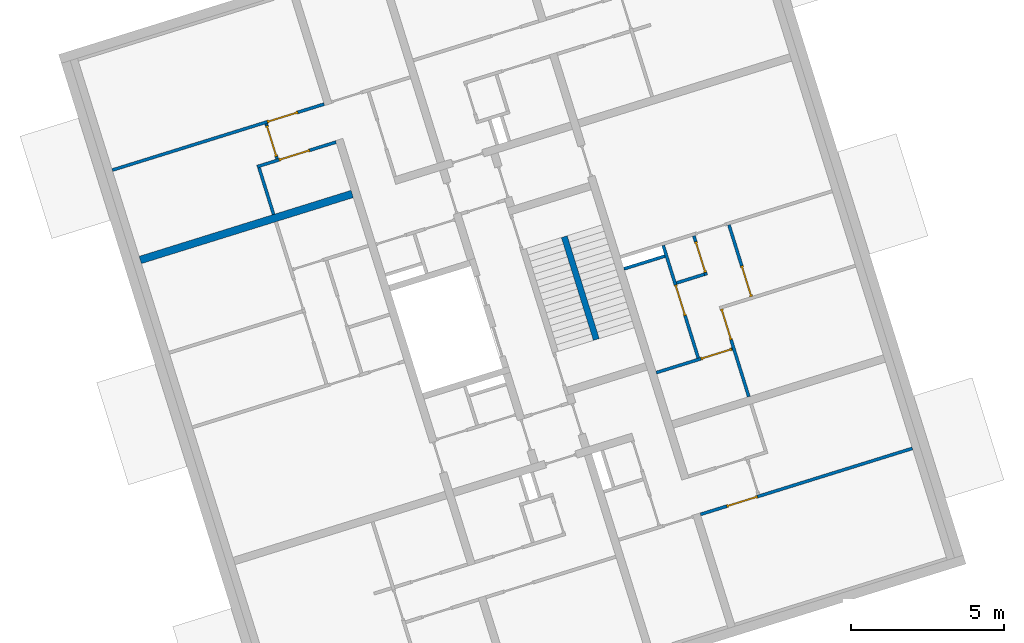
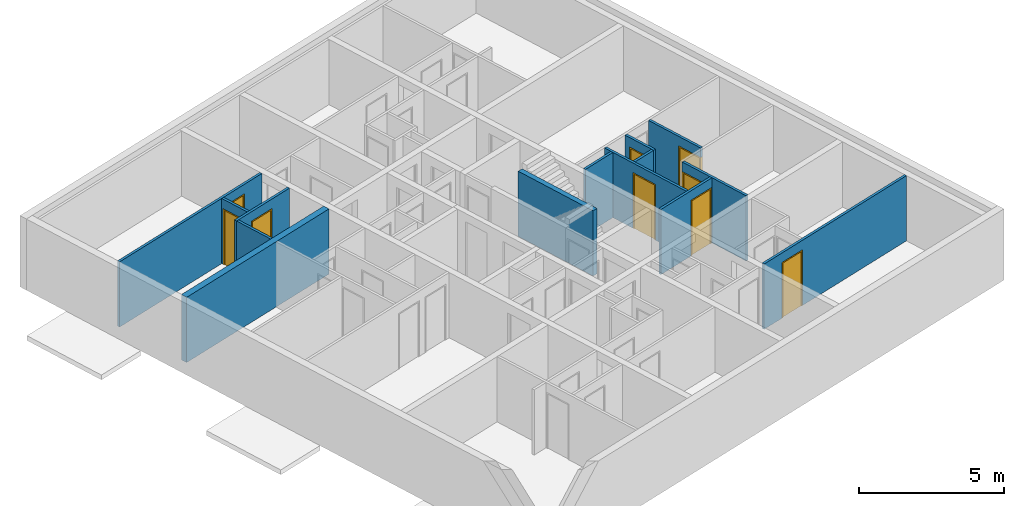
# One storey, part 4 of 8: 14 walls, 9 doors, 10 openings.
"""IFC4 building model written with IfcOpenShell, lengths in metres."""

import ifcopenshell
import ifcopenshell.guid

model = None  # the IFC model being written
_history = None  # IfcOwnerHistory: only IFC2X3 demands one
_inside = {}  # id of a spatial element -> (the spatial element, [elements in it])
_under = {}  # id of a project, library or spatial element -> (it, [spatial elements below it])
_declared = {}  # id of a project -> (the project, [libraries it declares])
_typed = {}  # id of a type object -> (the type object, [elements of that type])
_made_of = {}  # id of a material, layer set ... -> (it, [elements and type objects made of it])


def new_model(schema):
    """Start an empty IFC model of exactly this schema.

    Asked for "IFC4X3", IfcOpenShell would pick the latest addendum, in which some entities
    have other attributes; the version numbers below select the first issue.
    IFC2X3 requires an IfcOwnerHistory on every rooted entity: one is made here for all.
    """
    global model, _history
    if schema == "IFC4X3":
        model = ifcopenshell.file(schema_version=(4, 3, 0, 0))
    else:
        model = ifcopenshell.file(schema=schema)
    _inside.clear()
    _under.clear()
    _declared.clear()
    _typed.clear()
    _made_of.clear()
    _history = None
    if model.schema == "IFC2X3":
        org = make("IfcOrganization", Name="unknown")
        user = make(
            "IfcPersonAndOrganization",
            ThePerson=make("IfcPerson", FamilyName="unknown"),
            TheOrganization=org,
        )
        app = make(
            "IfcApplication",
            ApplicationDeveloper=org,
            Version="unknown",
            ApplicationFullName="unknown",
            ApplicationIdentifier="unknown",
        )
        _history = make(
            "IfcOwnerHistory",
            OwningUser=user,
            OwningApplication=app,
            ChangeAction="ADDED",
            CreationDate=0,
        )
    return model


def make(cls, **values):
    """One entity of the class cls with the attributes given. An attribute that is None is left unset."""
    return model.create_entity(
        cls, **{name: value for name, value in values.items() if value is not None}
    )


def entity(cls, *values):
    """Any entity or typed value of the class cls, its attributes in the order of the schema. None: left unset."""
    e = model.create_entity(cls)
    for i, value in enumerate(values):
        if value is not None:
            e[i] = value
    return e


def rooted(cls, **values):
    """An entity with a GlobalId (a new one), such as an element, a storey or a relation."""
    return make(cls, GlobalId=ifcopenshell.guid.new(), OwnerHistory=_history, **values)


def si_unit(unit_type, name, prefix=None):
    """IfcSIUnit, for example si_unit("LENGTHUNIT", "METRE", prefix="MILLI")."""
    return make("IfcSIUnit", UnitType=unit_type, Prefix=prefix, Name=name)


def converted_unit(unit_type, name, factor, base, dimensions=None, offset=None):
    """IfcConversionBasedUnit, such as the inch: factor (a typed value) times the base unit."""
    return make(
        "IfcConversionBasedUnit"
        if offset is None
        else "IfcConversionBasedUnitWithOffset",
        ConversionOffset=offset,
        Dimensions=None
        if dimensions is None
        else entity("IfcDimensionalExponents", *dimensions),
        UnitType=unit_type,
        Name=name,
        ConversionFactor=make(
            "IfcMeasureWithUnit", ValueComponent=factor, UnitComponent=base
        ),
    )


def assignment(units):
    """IfcUnitAssignment: the units of a project."""
    return None if units is None else make("IfcUnitAssignment", Units=units)


def point(xyz):
    """IfcCartesianPoint."""
    return None if xyz is None else make("IfcCartesianPoint", Coordinates=xyz)


def direction(xyz):
    """IfcDirection."""
    return None if xyz is None else make("IfcDirection", DirectionRatios=xyz)


def frame(location, z_axis=None, x_axis=None):
    """IfcAxis2Placement3D, a coordinate frame: its origin and axes. An axis left out is left unset."""
    return make(
        "IfcAxis2Placement3D",
        Location=point(location),
        Axis=direction(z_axis),
        RefDirection=direction(x_axis),
    )


def origin():
    """The frame at (0, 0, 0) with its axes left unset."""
    return frame((0.0, 0.0, 0.0))


def place(relative_to, where):
    """IfcLocalPlacement: puts the frame where relative to a parent placement (None: the world)."""
    return make(
        "IfcLocalPlacement", PlacementRelTo=relative_to, RelativePlacement=where
    )


def context(
    kind, dimensions, precision=None, world=None, true_north=None, identifier=None
):
    """IfcGeometricRepresentationContext, for example the 3D "Model" context."""
    return make(
        "IfcGeometricRepresentationContext",
        ContextIdentifier=identifier,
        ContextType=kind,
        CoordinateSpaceDimension=dimensions,
        Precision=precision,
        WorldCoordinateSystem=world,
        TrueNorth=true_north,
    )


def subcontext(parent, identifier, kind, view, scale=None):
    """IfcGeometricRepresentationSubContext, for example "Body" below "Model"."""
    return make(
        "IfcGeometricRepresentationSubContext",
        ContextIdentifier=identifier,
        ContextType=kind,
        ParentContext=parent,
        TargetScale=scale,
        TargetView=view,
    )


def project(units=None, contexts=None):
    """IfcProject with its units and contexts."""
    return rooted(
        "IfcProject",
        Name="project",
        RepresentationContexts=contexts,
        UnitsInContext=assignment(units),
    )


def spatial(cls, under=None, at=None, **own):
    """A site, building, storey or space (cls), placed at a placement, below another one or the project."""
    s = rooted(cls, ObjectPlacement=at, **own)
    if under is not None:
        _under.setdefault(under.id(), (under, []))[1].append(s)
    return s


def point_list(points):
    """IfcCartesianPointList2D or 3D."""
    cls = (
        "IfcCartesianPointList2D" if len(points[0]) == 2 else "IfcCartesianPointList3D"
    )
    return make(cls, CoordList=points)


def indexed_curve(points, segments=None, self_intersect=None):
    """IfcIndexedPolyCurve: lines and arcs through numbered points (the first is 1)."""
    return make(
        "IfcIndexedPolyCurve",
        Points=point_list(points),
        Segments=segments,
        SelfIntersect=self_intersect,
    )


def outline(outer, holes=None, kind="AREA"):
    """IfcArbitraryClosedProfileDef: a profile drawn as a closed curve; with holes, ...WithVoids."""
    if holes is None:
        return make("IfcArbitraryClosedProfileDef", ProfileType=kind, OuterCurve=outer)
    return make(
        "IfcArbitraryProfileDefWithVoids",
        ProfileType=kind,
        OuterCurve=outer,
        InnerCurves=holes,
    )


def extrude(swept, where, along, depth):
    """IfcExtrudedAreaSolid: the profile swept, set in the frame where, extruded along a direction by depth."""
    return make(
        "IfcExtrudedAreaSolid",
        SweptArea=swept,
        Position=where,
        ExtrudedDirection=direction(along),
        Depth=depth,
    )


def polygons(points, faces, closed=None, point_numbers=None):
    """IfcPolygonalFaceSet: a face is its outer loop, then its inner loops; points numbered from 1."""
    made = []
    for loops in faces:
        if len(loops) == 1:
            made.append(make("IfcIndexedPolygonalFace", CoordIndex=loops[0]))
        else:
            made.append(
                make(
                    "IfcIndexedPolygonalFaceWithVoids",
                    CoordIndex=loops[0],
                    InnerCoordIndices=loops[1:],
                )
            )
    return make(
        "IfcPolygonalFaceSet",
        Coordinates=point_list(points),
        Closed=closed,
        Faces=made,
        PnIndex=point_numbers,
    )


def shape(context_of_items, identifier, shape_type, items):
    """IfcShapeRepresentation: the items that make up one representation, for example the "Body"."""
    return make(
        "IfcShapeRepresentation",
        ContextOfItems=context_of_items,
        RepresentationIdentifier=identifier,
        RepresentationType=shape_type,
        Items=items,
    )


def source(mapping_origin, context_of_items, identifier, shape_type, items):
    """IfcRepresentationMap: a shape defined once, which mapped items show again and again."""
    return make(
        "IfcRepresentationMap",
        MappingOrigin=mapping_origin,
        MappedRepresentation=shape(context_of_items, identifier, shape_type, items),
    )


def transform(
    local_origin,
    x_axis=None,
    y_axis=None,
    z_axis=None,
    scale=None,
    scale2=None,
    scale3=None,
    uniform=True,
):
    """IfcCartesianTransformationOperator3D, or its non-uniform kind. x_axis, y_axis, z_axis: its Axis1, 2, 3."""
    if uniform:
        return make(
            "IfcCartesianTransformationOperator3D",
            Axis1=direction(x_axis),
            Axis2=direction(y_axis),
            LocalOrigin=point(local_origin),
            Scale=scale,
            Axis3=direction(z_axis),
        )
    return make(
        "IfcCartesianTransformationOperator3DnonUniform",
        Axis1=direction(x_axis),
        Axis2=direction(y_axis),
        LocalOrigin=point(local_origin),
        Scale=scale,
        Axis3=direction(z_axis),
        Scale2=scale2,
        Scale3=scale3,
    )


def mapped(mapping_source, mapping_target):
    """IfcMappedItem: shows the shape of a source again, moved by a transform."""
    return make(
        "IfcMappedItem", MappingSource=mapping_source, MappingTarget=mapping_target
    )


def material(Name=None, Category=None):
    """IfcMaterial."""
    return make("IfcMaterial", Name=Name, Category=Category)


def constituent(of_material, Name=None, Category=None, fraction=None):
    """IfcMaterialConstituent: one of the materials an element consists of."""
    return make(
        "IfcMaterialConstituent",
        Name=Name,
        Material=of_material,
        Fraction=fraction,
        Category=Category,
    )


def constituent_set(constituents=None, Name=None):
    """IfcMaterialConstituentSet."""
    return make(
        "IfcMaterialConstituentSet", Name=Name, MaterialConstituents=constituents
    )


def made_of(thing, what):
    """Note that an element or type object is made of a material, layer set ...; save() writes the relation."""
    if what is not None:
        _made_of.setdefault(what.id(), (what, []))[1].append(thing)
    return thing


def type_object(cls, material=None, **own):
    """A type object (cls), such as IfcWallType, which elements share."""
    return made_of(rooted(cls, **own), material)


def type_shapes(of_type, sources):
    """Give a type object the sources (RepresentationMaps) that its elements show as mapped items."""
    of_type.RepresentationMaps = sources


def element(
    cls,
    number,
    at=None,
    inside=None,
    cuts=None,
    type_object=None,
    material=None,
    context=None,
    identifier="Body",
    shape_type=None,
    held_by="IfcProductDefinitionShape",
    body=None,
    shapes=None,
    **own,
):
    """One element of the class cls, such as IfcWall. Its Tag is "e" and its number.

    at: its placement. inside: the storey or other place that contains it. cuts: it is an
    opening in that element (IfcRelVoidsElement). A single representation is given by context,
    identifier, shape_type and body (its items); several are given by shapes. held_by: the class
    of the entity that holds the representations. save() writes the other relations.
    """
    e = rooted(cls, Tag="e%d" % number, ObjectPlacement=at, **own)
    if body is not None:
        shapes = [shape(context, identifier, shape_type, body)]
    if shapes is not None:
        e.Representation = make(held_by, Representations=shapes)
    if inside is not None:
        _inside.setdefault(inside.id(), (inside, []))[1].append(e)
    if cuts is not None:
        rooted(
            "IfcRelVoidsElement", RelatingBuildingElement=cuts, RelatedOpeningElement=e
        )
    if type_object is not None:
        _typed.setdefault(type_object.id(), (type_object, []))[1].append(e)
    return made_of(e, material)


def fill(opening, filler):
    """IfcRelFillsElement: the door or window that sits in an opening."""
    return rooted(
        "IfcRelFillsElement",
        RelatingOpeningElement=opening,
        RelatedBuildingElement=filler,
    )


def aggregate(whole, parts):
    """IfcRelAggregates: a whole, such as a stair, and the parts it consists of."""
    return rooted("IfcRelAggregates", RelatingObject=whole, RelatedObjects=parts)


def save(model, path):
    """Write the relations noted so far, then the file.

    IfcRelAggregates (storeys below a building ...), IfcRelContainedInSpatialStructure (elements
    in a storey), IfcRelDefinesByType, IfcRelAssociatesMaterial and IfcRelDeclares: one each for
    every whole, place, type object, material and project.
    """
    for whole, parts in _under.values():
        aggregate(whole, parts)
    for where, things in _inside.values():
        rooted(
            "IfcRelContainedInSpatialStructure",
            RelatedElements=things,
            RelatingStructure=where,
        )
    for kind, things in _typed.values():
        rooted("IfcRelDefinesByType", RelatedObjects=things, RelatingType=kind)
    for what, things in _made_of.values():
        rooted("IfcRelAssociatesMaterial", RelatedObjects=things, RelatingMaterial=what)
    for by, libraries in _declared.values():
        rooted("IfcRelDeclares", RelatingContext=by, RelatedDefinitions=libraries)
    model.write(path)


model = new_model("IFC4")

# Units and contexts
model_context = context("Model", 3, precision=1e-05, world=origin(), true_north=direction((6.12323399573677e-17, 1.0)))
body_context = subcontext(model_context, "Body", "Model", "MODEL_VIEW")
ifc_project = project(units=[si_unit("LENGTHUNIT", "METRE"), si_unit("AREAUNIT", "SQUARE_METRE"), si_unit("VOLUMEUNIT", "CUBIC_METRE"), converted_unit("PLANEANGLEUNIT", "DEGREE", entity("IfcPlaneAngleMeasure", 0.0174532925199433), si_unit("PLANEANGLEUNIT", "RADIAN"), dimensions=[0, 0, 0, 0, 0, 0, 0])], contexts=[model_context])

# Site, building, storey
site_placement = place(None, frame((13.1347999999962, 11.9886000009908, 0.0), z_axis=(0.0, 0.0, 1.0), x_axis=(0.954770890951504, 0.297342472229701, 0.0)))
site = spatial("IfcSite", under=ifc_project, at=site_placement, Name="Schiehaven", CompositionType="ELEMENT")
building_placement = place(site_placement, origin())
building = spatial("IfcBuilding", under=site, at=building_placement, Name="VORM huis", CompositionType="ELEMENT")
storey_placement = place(building_placement, frame((0.0, 0.0, 21.9)))
storey = spatial("IfcBuildingStorey", under=building, at=storey_placement, Name="07 zevende verdieping", CompositionType="ELEMENT", Elevation=21.9)

# Walls
ifc_material_1 = material(Name="beton_gewapend_prefab-element", Category="Miscellaneous")
wall_type_1 = type_object("IfcWallType", Name="Basic Wall:28_WA_skelet_wand 200mm_gen", PredefinedType="STANDARD")
wall_1_placement = place(storey_placement, frame((18.5750000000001, 15.29, 0.0), z_axis=(0.0, 0.0, 1.0), x_axis=(0.0, 1.0, 0.0)))
element("IfcWall", 1, at=wall_1_placement, inside=storey, type_object=wall_type_1, material=ifc_material_1, Name="Constructieve wand", ObjectType="Wand", PredefinedType="NOTDEFINED", context=body_context, shape_type="SweptSolid", body=[
    extrude(outline(indexed_curve([(3.52, 0.0999999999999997), (-6.36077049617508e-16, 0.0999999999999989), (6.36077049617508e-16, -0.0999999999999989), (3.52, -0.0999999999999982), (3.52, 0.0999999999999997)], self_intersect=False)), origin(), (0.0, 0.0, 1.0), 2.75),
])
ifc_material_2 = material(Name="ntb_ntb_ntb", Category="Miscellaneous")
wall_type_2 = type_object("IfcWallType", Name="Basic Wall:22_WA_afbouw_binnenwand 250mm_gen", PredefinedType="STANDARD")
wall_2_placement = place(storey_placement, frame((12.3750000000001, 22.2, 0.0), z_axis=(0.0, 0.0, 1.0), x_axis=(-1.0, 0.0, 0.0)))
element("IfcWall", 2, at=wall_2_placement, inside=storey, type_object=wall_type_2, material=ifc_material_2, Name="Binnenwand", ObjectType="Wand", PredefinedType="NOTDEFINED", context=body_context, shape_type="SweptSolid", body=[
    extrude(outline(indexed_curve([(7.24999999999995, 0.125000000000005), (-4.9649652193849e-16, 0.125000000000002), (4.9649652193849e-16, -0.125000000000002), (7.24999999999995, -0.124999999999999), (7.24999999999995, 0.125000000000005)], self_intersect=False)), origin(), (0.0, 0.0, 1.0), 2.75),
])

# Wall, opening, door
wall_type_3 = type_object("IfcWallType", Name="Basic Wall:22_WA_afbouw_binnenwand 100mm_gen", PredefinedType="STANDARD")
wall_3_placement = place(storey_placement, frame((27.3750000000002, 8.82499999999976, 0.0), z_axis=(0.0, 0.0, 1.0), x_axis=(-1.0, 0.0, 0.0)))
wall_3 = element("IfcWall", 3, at=wall_3_placement, inside=storey, type_object=wall_type_3, material=ifc_material_2, Name="Binnenwand", ObjectType="Wand", PredefinedType="NOTDEFINED", context=body_context, shape_type="Tessellation", body=[
    polygons([(6.35000000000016, -0.0500000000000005, 2.34999999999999), (6.35000000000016, -0.0500000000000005, 0.0), (7.25000000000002, -0.0500000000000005, 0.0), (7.25000000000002, -0.0500000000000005, 2.75), (5.30000000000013, -0.0500000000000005, 2.75), (5.20000000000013, -0.0500000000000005, 2.75), (5.16304195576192e-15, -0.0500000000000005, 2.75), (5.16304195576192e-15, -0.0500000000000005, 0.0), (5.20000000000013, -0.0500000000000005, 0.0), (5.30000000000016, -0.0500000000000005, 0.0), (5.30000000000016, -0.0500000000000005, 2.34999999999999), (7.25000000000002, 0.0499999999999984, 0.0), (6.35000000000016, 0.0499999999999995, 0.0), (6.35000000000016, 0.0499999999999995, 2.34999999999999), (5.30000000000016, 0.0499999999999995, 2.34999999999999), (5.30000000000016, 0.0499999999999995, 0.0), (4.86084043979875e-15, 0.0500000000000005, 0.0), (4.86084043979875e-15, 0.0500000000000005, 2.75), (7.25000000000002, 0.0499999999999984, 2.75)], [[[1, 2, 3, 4, 5, 6, 7, 8, 9, 10, 11]], [[12, 13, 14, 15, 16, 17, 18, 19]], [[10, 9, 8, 17, 16]], [[4, 3, 12, 19]], [[7, 6, 5, 4, 19, 18]], [[8, 7, 18, 17]], [[16, 15, 11, 10]], [[14, 13, 2, 1]], [[15, 14, 1, 11]], [[3, 2, 13, 12]]], closed=True),
])
opening_1_placement = place(wall_3_placement, frame((6.35000000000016, 0.04999999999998, 0.0)))
opening_1 = element("IfcOpeningElement", 4, at=opening_1_placement, cuts=wall_3, Name="Binnendeur", PredefinedType="OPENING", context=body_context, shape_type="SweptSolid", body=[
    extrude(outline(indexed_curve([(2.34999999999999, 1.05), (0.0, 1.05), (0.0, 0.0), (2.34999999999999, 0.0), (2.34999999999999, 1.05)], self_intersect=False)), frame((0.0, 0.0, 0.0), z_axis=(0.0, -1.0, 0.0), x_axis=(0.0, 0.0, 1.0)), (0.0, 0.0, 1.0), 0.1),
])
ifc_material_3 = material(Name="PD_a_binnenwandopeningen", Category="Miscellaneous")
ifc_constituent_1 = constituent(ifc_material_3, Name="PD_a_binnenwandopeningen", Category="Miscellaneous")
ifc_material_4 = material(Name="metaal_aluminium_ntb", Category="Miscellaneous")
ifc_constituent_2 = constituent(ifc_material_4, Name="metaal_aluminium_ntb", Category="Miscellaneous")
ifc_constituent_set_1 = constituent_set(constituents=[ifc_constituent_1, ifc_constituent_2])
door_type = type_object("IfcDoorType", Name="32_DO_binnendeur enkel:binnendeur", OperationType="REVOLVING", PredefinedType="DOOR")
shared_shape_1 = source(origin(), body_context, "Body", "SweptSolid", [
    extrude(outline(indexed_curve([(-1.16249999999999, -0.525000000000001), (1.18749999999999, -0.525), (1.18749999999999, 0.525), (-1.16249999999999, 0.525), (-1.16249999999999, 0.475), (1.13749999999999, 0.475), (1.13749999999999, -0.475), (-1.16249999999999, -0.475), (-1.16249999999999, -0.525000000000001)], self_intersect=False)), frame((0.525000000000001, 0.0, 1.16249999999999), z_axis=(0.0, 1.0, 0.0), x_axis=(0.0, 0.0, 1.0)), (0.0, 0.0, 1.0), 0.1),
    extrude(outline(indexed_curve([(-0.025, -0.475), (0.025, -0.475), (0.025, 0.475), (-0.025, 0.475), (-0.025, -0.475)], self_intersect=False)), frame((0.525000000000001, 0.0499999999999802, 0.0), z_axis=(0.0, 0.0, 1.0), x_axis=(0.0, 1.0, 0.0)), (0.0, 0.0, 1.0), 2.29999999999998),
])
type_shapes(door_type, [shared_shape_1])
door_1_placement = place(opening_1_placement, frame((0.0, 0.0, 0.0), z_axis=(0.0, 0.0, 1.0), x_axis=(-1.0, 0.0, 0.0)))
door_1 = element("IfcDoor", 5, at=door_1_placement, inside=storey, type_object=door_type, material=ifc_constituent_set_1, Name="Binnendeur", ObjectType="Deur", OperationType="REVOLVING", OverallHeight=2.34999999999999, OverallWidth=1.05, PredefinedType="DOOR", context=body_context, shape_type="MappedRepresentation", body=[
    mapped(shared_shape_1, transform((0.0, 0.0, 0.0), scale=1.0)),
])
fill(opening_1, door_1)

wall_4_placement = place(storey_placement, frame((22.6250000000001, 16.225, 0.0), z_axis=(0.0, 0.0, 1.0), x_axis=(0.0, 1.0, 0.0)))
wall_4 = element("IfcWall", 6, at=wall_4_placement, inside=storey, type_object=wall_type_3, material=ifc_material_2, Name="Binnenwand", ObjectType="Wand", PredefinedType="NOTDEFINED", context=body_context, shape_type="Tessellation", body=[
    polygons([(1.15, -0.0499999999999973, 2.34999999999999), (1.15, -0.0499999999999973, 0.0), (1.35, -0.0499999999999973, 0.0), (1.35, -0.0499999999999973, 2.75), (0.0, -0.0499999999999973, 2.75), (0.0, -0.0499999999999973, 0.0), (0.100000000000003, -0.0499999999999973, 0.0), (0.100000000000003, -0.0499999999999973, 2.34999999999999), (1.35, 0.0500000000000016, 0.0), (1.15, 0.0500000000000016, 0.0), (1.15, 0.0500000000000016, 2.34999999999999), (0.100000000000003, 0.0500000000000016, 2.34999999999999), (0.100000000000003, 0.0500000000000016, 0.0), (0.0, 0.0500000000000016, 0.0), (0.0, 0.0500000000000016, 2.75), (0.100000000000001, 0.0500000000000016, 2.75), (1.35, 0.0500000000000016, 2.75)], [[[1, 2, 3, 4, 5, 6, 7, 8]], [[9, 10, 11, 12, 13, 14, 15, 16, 17]], [[7, 6, 14, 13]], [[5, 4, 17, 16, 15]], [[13, 12, 8, 7]], [[11, 10, 2, 1]], [[12, 11, 1, 8]], [[6, 5, 15, 14]], [[4, 3, 9, 17]], [[3, 2, 10, 9]]], closed=True),
])
opening_2_placement = place(wall_4_placement, frame((1.15000000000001, 0.0500000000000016, 0.0)))
opening_2 = element("IfcOpeningElement", 7, at=opening_2_placement, cuts=wall_4, Name="Binnendeur", PredefinedType="OPENING", context=body_context, shape_type="SweptSolid", body=[
    extrude(outline(indexed_curve([(2.34999999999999, 1.05), (0.0, 1.05), (0.0, 1.35358391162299e-15), (2.34999999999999, 1.35358391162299e-15), (2.34999999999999, 1.05)], self_intersect=False)), frame((0.0, 0.0, 0.0), z_axis=(0.0, -1.0, 0.0), x_axis=(0.0, 0.0, 1.0)), (0.0, 0.0, 1.0), 0.1),
])
ifc_constituent_3 = constituent(ifc_material_3, Name="PD_a_binnenwandopeningen", Category="Miscellaneous")
ifc_constituent_4 = constituent(ifc_material_4, Name="metaal_aluminium_ntb", Category="Miscellaneous")
ifc_constituent_set_2 = constituent_set(constituents=[ifc_constituent_3, ifc_constituent_4])
door_2_placement = place(opening_2_placement, frame((0.0, 0.0, 0.0), z_axis=(0.0, 0.0, 1.0), x_axis=(-1.0, 0.0, 0.0)))
door_2 = element("IfcDoor", 8, at=door_2_placement, inside=storey, type_object=door_type, material=ifc_constituent_set_2, Name="Binnendeur", ObjectType="Deur", OperationType="REVOLVING", OverallHeight=2.34999999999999, OverallWidth=1.05, PredefinedType="DOOR", context=body_context, shape_type="MappedRepresentation", body=[
    mapped(shared_shape_1, transform((0.0, 0.0, 0.0), scale=1.0)),
])
fill(opening_2, door_2)

# Walls
wall_5_placement = place(storey_placement, frame((21.6250000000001, 16.275, 0.0)))
element("IfcWall", 9, at=wall_5_placement, inside=storey, type_object=wall_type_3, material=ifc_material_2, Name="Binnenwand", ObjectType="Wand", PredefinedType="NOTDEFINED", context=body_context, shape_type="SweptSolid", body=[
    extrude(outline(indexed_curve([(0.950000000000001, 0.0499999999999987), (-1.88291440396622e-16, 0.0499999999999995), (1.88291440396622e-16, -0.0499999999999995), (0.950000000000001, -0.0500000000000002), (0.950000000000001, 0.0499999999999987)], self_intersect=False)), origin(), (0.0, 0.0, 1.0), 2.75),
])
wall_6_placement = place(storey_placement, frame((20.1228357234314, 17.225, 0.0)))
element("IfcWall", 10, at=wall_6_placement, inside=storey, type_object=wall_type_3, material=ifc_material_2, Name="Binnenwand", ObjectType="Wand", PredefinedType="NOTDEFINED", context=body_context, shape_type="SweptSolid", body=[
    extrude(outline(indexed_curve([(1.40216427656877, 0.0500000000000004), (-1.88291440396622e-16, 0.0499999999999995), (1.88291440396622e-16, -0.0499999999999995), (1.40216427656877, -0.0499999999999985), (1.40216427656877, 0.0500000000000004)], self_intersect=False)), origin(), (0.0, 0.0, 1.0), 2.75),
])

# Wall, opening, door
wall_7_placement = place(storey_placement, frame((23.8250000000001, 15.125, 0.0), z_axis=(0.0, 0.0, 1.0), x_axis=(0.0, 1.0, 0.0)))
wall_7 = element("IfcWall", 11, at=wall_7_placement, inside=storey, type_object=wall_type_3, material=ifc_material_2, Name="Binnenwand", ObjectType="Wand", PredefinedType="NOTDEFINED", context=body_context, shape_type="Tessellation", body=[
    polygons([(2.45, -0.0499999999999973, 2.75), (0.0, -0.0499999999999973, 2.75), (0.0, -0.0499999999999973, 2.34999999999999), (1.05, -0.0499999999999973, 2.34999999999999), (1.05, -0.0499999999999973, 0.0), (2.45, -0.0499999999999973, 0.0), (0.0, 0.0500000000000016, 2.75), (2.45, 0.0500000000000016, 2.75), (2.45, 0.0500000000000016, 0.0), (1.05, 0.0500000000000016, 0.0), (1.05, 0.0500000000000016, 2.34999999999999), (0.0, 0.0500000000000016, 2.34999999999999)], [[[1, 2, 3, 4, 5, 6]], [[7, 8, 9, 10, 11, 12]], [[9, 6, 5, 10]], [[2, 1, 8, 7]], [[4, 11, 10, 5]], [[11, 4, 3, 12]], [[2, 7, 12, 3]], [[1, 6, 9, 8]]], closed=True),
])
opening_3_placement = place(wall_7_placement, frame((0.0, -0.050000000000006, 0.0)))
opening_3 = element("IfcOpeningElement", 12, at=opening_3_placement, cuts=wall_7, Name="Binnendeur", PredefinedType="OPENING", context=body_context, shape_type="SweptSolid", body=[
    extrude(outline(indexed_curve([(2.34999999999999, 1.05), (0.0, 1.05), (0.0, 1.35358391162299e-15), (2.34999999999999, 1.35358391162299e-15), (2.34999999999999, 1.05)], self_intersect=False)), frame((0.0, 0.0, 0.0), z_axis=(0.0, 1.0, 0.0), x_axis=(0.0, 0.0, 1.0)), (0.0, 0.0, 1.0), 0.1),
])
ifc_constituent_5 = constituent(ifc_material_3, Name="PD_a_binnenwandopeningen", Category="Miscellaneous")
ifc_constituent_6 = constituent(ifc_material_4, Name="metaal_aluminium_ntb", Category="Miscellaneous")
ifc_constituent_set_3 = constituent_set(constituents=[ifc_constituent_5, ifc_constituent_6])
door_3_placement = place(opening_3_placement, origin())
door_3 = element("IfcDoor", 13, at=door_3_placement, inside=storey, type_object=door_type, material=ifc_constituent_set_3, Name="Binnendeur", ObjectType="Deur", OperationType="REVOLVING", OverallHeight=2.34999999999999, OverallWidth=1.05, PredefinedType="DOOR", context=body_context, shape_type="MappedRepresentation", body=[
    mapped(shared_shape_1, transform((0.0, 0.0, 0.0), scale=1.0)),
])
fill(opening_3, door_3)

wall_8_placement = place(storey_placement, frame((22.7750000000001, 12.025, 0.0), z_axis=(0.0, 0.0, 1.0), x_axis=(0.0, 1.0, 0.0)))
wall_8 = element("IfcWall", 14, at=wall_8_placement, inside=storey, type_object=wall_type_3, material=ifc_material_2, Name="Binnenwand", ObjectType="Wand", PredefinedType="NOTDEFINED", context=body_context, shape_type="Tessellation", body=[
    polygons([(3.00000000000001, -0.0499999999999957, 2.75), (0.0, -0.049999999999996, 2.75), (0.0, -0.049999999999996, 0.0), (1.95000000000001, -0.0499999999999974, 0.0), (1.95000000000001, -0.0499999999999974, 2.34999999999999), (3.00000000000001, -0.0499999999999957, 2.34999999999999), (0.0, 0.0500000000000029, 2.75), (1.60000000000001, 0.050000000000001, 2.75), (1.70000000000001, 0.0500000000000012, 2.75), (3.00000000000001, 0.0500000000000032, 2.75), (3.00000000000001, 0.0500000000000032, 2.34999999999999), (1.95000000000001, 0.0500000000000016, 2.34999999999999), (1.95000000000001, 0.0500000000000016, 0.0), (1.70000000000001, 0.0500000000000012, 0.0), (1.60000000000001, 0.050000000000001, 0.0), (0.0, 0.0500000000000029, 0.0)], [[[1, 2, 3, 4, 5, 6]], [[7, 8, 9, 10, 11, 12, 13, 14, 15, 16]], [[3, 16, 15, 14, 13, 4]], [[2, 1, 10, 9, 8, 7]], [[3, 2, 7, 16]], [[12, 5, 4, 13]], [[5, 12, 11, 6]], [[10, 1, 6, 11]]], closed=True),
])
opening_4_placement = place(wall_8_placement, frame((1.95000000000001, -0.0500000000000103, 0.0)))
opening_4 = element("IfcOpeningElement", 15, at=opening_4_placement, cuts=wall_8, Name="Binnendeur", PredefinedType="OPENING", context=body_context, shape_type="SweptSolid", body=[
    extrude(outline(indexed_curve([(2.34999999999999, 1.05), (0.0, 1.05), (0.0, 1.35358391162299e-15), (2.34999999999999, 1.35358391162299e-15), (2.34999999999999, 1.05)], self_intersect=False)), frame((0.0, 0.0, 0.0), z_axis=(0.0, 1.0, 0.0), x_axis=(0.0, 0.0, 1.0)), (0.0, 0.0, 1.0), 0.1),
])
ifc_constituent_7 = constituent(ifc_material_3, Name="PD_a_binnenwandopeningen", Category="Miscellaneous")
ifc_constituent_8 = constituent(ifc_material_4, Name="metaal_aluminium_ntb", Category="Miscellaneous")
ifc_constituent_set_4 = constituent_set(constituents=[ifc_constituent_7, ifc_constituent_8])
door_4_placement = place(opening_4_placement, origin())
door_4 = element("IfcDoor", 16, at=door_4_placement, inside=storey, type_object=door_type, material=ifc_constituent_set_4, Name="Binnendeur", ObjectType="Deur", OperationType="REVOLVING", OverallHeight=2.34999999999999, OverallWidth=1.05, PredefinedType="DOOR", context=body_context, shape_type="MappedRepresentation", body=[
    mapped(shared_shape_1, transform((0.0, 0.0, 0.0), scale=1.0)),
])
fill(opening_4, door_4)

wall_9_placement = place(storey_placement, frame((22.7250000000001, 13.675, 0.0), z_axis=(0.0, 0.0, 1.0), x_axis=(-1.0, 0.0, 0.0)))
wall_9 = element("IfcWall", 17, at=wall_9_placement, inside=storey, type_object=wall_type_3, material=ifc_material_2, Name="Binnenwand", ObjectType="Wand", PredefinedType="NOTDEFINED", context=body_context, shape_type="Tessellation", body=[
    polygons([(1.075, -0.0499999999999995, 2.34999999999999), (1.075, -0.0499999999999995, 0.0), (1.1, -0.0499999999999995, 0.0), (1.2, -0.0499999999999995, 0.0), (2.59999999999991, -0.0500000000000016, 0.0), (2.59999999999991, -0.0500000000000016, 2.75), (1.2, -0.0499999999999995, 2.75), (1.1, -0.0499999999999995, 2.75), (1.50273447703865e-15, -0.0500000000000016, 2.75), (1.50273447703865e-15, -0.0500000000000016, 0.0), (0.0250000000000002, -0.0500000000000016, 0.0), (0.0250000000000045, -0.0500000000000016, 2.34999999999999), (2.59999999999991, 0.0500000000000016, 0.0), (1.075, 0.0500000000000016, 0.0), (1.075, 0.0500000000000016, 2.34999999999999), (0.0250000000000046, 0.0499999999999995, 2.34999999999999), (0.0250000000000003, 0.0499999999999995, 0.0), (1.64958043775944e-15, 0.0499999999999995, 0.0), (1.64958043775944e-15, 0.0499999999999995, 2.75), (2.59999999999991, 0.0500000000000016, 2.75)], [[[1, 2, 3, 4, 5, 6, 7, 8, 9, 10, 11, 12]], [[13, 14, 15, 16, 17, 18, 19, 20]], [[11, 10, 18, 17]], [[6, 5, 13, 20]], [[9, 8, 7, 6, 20, 19]], [[17, 16, 12, 11]], [[15, 14, 2, 1]], [[16, 15, 1, 12]], [[10, 9, 19, 18]], [[5, 4, 3, 2, 14, 13]]], closed=True),
])
opening_5_placement = place(wall_9_placement, frame((1.075, 0.050000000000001, 0.0)))
opening_5 = element("IfcOpeningElement", 18, at=opening_5_placement, cuts=wall_9, Name="Binnendeur", PredefinedType="OPENING", context=body_context, shape_type="SweptSolid", body=[
    extrude(outline(indexed_curve([(2.34999999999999, 1.05), (0.0, 1.05), (0.0, 2.27341277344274e-30), (2.34999999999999, 2.27341277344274e-30), (2.34999999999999, 1.05)], self_intersect=False)), frame((0.0, 0.0, 0.0), z_axis=(0.0, -1.0, 0.0), x_axis=(0.0, 0.0, 1.0)), (0.0, 0.0, 1.0), 0.1),
])
ifc_constituent_9 = constituent(ifc_material_3, Name="PD_a_binnenwandopeningen", Category="Miscellaneous")
ifc_constituent_10 = constituent(ifc_material_4, Name="metaal_aluminium_ntb", Category="Miscellaneous")
ifc_constituent_set_5 = constituent_set(constituents=[ifc_constituent_9, ifc_constituent_10])
door_5_placement = place(opening_5_placement, frame((0.0, 0.0, 0.0), z_axis=(0.0, 0.0, 1.0), x_axis=(-1.0, 0.0, 0.0)))
door_5 = element("IfcDoor", 19, at=door_5_placement, inside=storey, type_object=door_type, material=ifc_constituent_set_5, Name="Binnendeur", ObjectType="Deur", OperationType="REVOLVING", OverallHeight=2.34999999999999, OverallWidth=1.05, PredefinedType="DOOR", context=body_context, shape_type="MappedRepresentation", body=[
    mapped(shared_shape_1, transform((0.0, 0.0, 0.0), scale=1.0)),
])
fill(opening_5, door_5)

wall_10_placement = place(storey_placement, frame((21.5750000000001, 13.725, 0.0), z_axis=(0.0, 0.0, 1.0), x_axis=(0.0, 1.0, 0.0)))
wall_10 = element("IfcWall", 20, at=wall_10_placement, inside=storey, type_object=wall_type_3, material=ifc_material_2, Name="Binnenwand", ObjectType="Wand", PredefinedType="NOTDEFINED", context=body_context, shape_type="Tessellation", body=[
    polygons([(2.50000000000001, -0.0499999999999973, 2.34999999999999), (2.50000000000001, -0.0499999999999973, 0.0), (2.60000000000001, -0.0499999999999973, 0.0), (3.85000000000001, -0.0499999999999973, 0.0), (3.85000000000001, -0.0499999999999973, 2.75), (2.60000000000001, -0.0499999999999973, 2.75), (2.50000000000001, -0.0499999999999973, 2.75), (2.16573425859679e-15, -0.0499999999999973, 2.75), (0.0, -0.0499999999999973, 0.0), (1.45000000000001, -0.0499999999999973, 0.0), (1.45000000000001, -0.0499999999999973, 2.34999999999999), (3.85000000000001, 0.0500000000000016, 0.0), (3.55000000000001, 0.0500000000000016, 0.0), (3.45000000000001, 0.0500000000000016, 0.0), (2.50000000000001, 0.0500000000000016, 0.0), (2.50000000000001, 0.0500000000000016, 2.34999999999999), (1.45000000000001, 0.0500000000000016, 2.34999999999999), (1.45000000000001, 0.0500000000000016, 0.0), (0.0, 0.0500000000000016, 0.0), (0.0, 0.0500000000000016, 2.75), (3.45000000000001, 0.0500000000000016, 2.75), (3.55000000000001, 0.0500000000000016, 2.75), (3.85000000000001, 0.0500000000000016, 2.75)], [[[1, 2, 3, 4, 5, 6, 7, 8, 9, 10, 11]], [[12, 13, 14, 15, 16, 17, 18, 19, 20, 21, 22, 23]], [[10, 9, 19, 18]], [[8, 7, 6, 5, 23, 22, 21, 20]], [[18, 17, 11, 10]], [[16, 15, 2, 1]], [[17, 16, 1, 11]], [[9, 8, 20, 19]], [[5, 4, 12, 23]], [[4, 3, 2, 15, 14, 13, 12]]], closed=True),
])
opening_6_placement = place(wall_10_placement, frame((2.50000000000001, 0.0499999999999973, 0.0)))
opening_6 = element("IfcOpeningElement", 21, at=opening_6_placement, cuts=wall_10, Name="Binnendeur", PredefinedType="OPENING", context=body_context, shape_type="SweptSolid", body=[
    extrude(outline(indexed_curve([(2.34999999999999, 1.05), (0.0, 1.05), (0.0, 1.08286712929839e-15), (2.34999999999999, 1.08286712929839e-15), (2.34999999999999, 1.05)], self_intersect=False)), frame((0.0, 0.0, 0.0), z_axis=(0.0, -1.0, 0.0), x_axis=(0.0, 0.0, 1.0)), (0.0, 0.0, 1.0), 0.1),
])
ifc_constituent_11 = constituent(ifc_material_3, Name="PD_a_binnenwandopeningen", Category="Miscellaneous")
ifc_constituent_12 = constituent(ifc_material_4, Name="metaal_aluminium_ntb", Category="Miscellaneous")
ifc_constituent_set_6 = constituent_set(constituents=[ifc_constituent_11, ifc_constituent_12])
door_6_placement = place(opening_6_placement, frame((0.0, 0.0, 0.0), z_axis=(0.0, 0.0, 1.0), x_axis=(-1.0, 0.0, 0.0)))
door_6 = element("IfcDoor", 22, at=door_6_placement, inside=storey, type_object=door_type, material=ifc_constituent_set_6, Name="Binnendeur", ObjectType="Deur", OperationType="REVOLVING", OverallHeight=2.34999999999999, OverallWidth=1.05, PredefinedType="DOOR", context=body_context, shape_type="MappedRepresentation", body=[
    mapped(shared_shape_1, transform((0.0, 0.0, 0.0), scale=1.0)),
])
fill(opening_6, door_6)

wall_11_placement = place(storey_placement, frame((9.6750000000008, 23.9750000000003, 0.0)))
wall_11 = element("IfcWall", 23, at=wall_11_placement, inside=storey, type_object=wall_type_3, material=ifc_material_2, Name="Binnenwand", ObjectType="Wand", PredefinedType="NOTDEFINED", context=body_context, shape_type="Tessellation", body=[
    polygons([(1.04557742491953e-15, -0.0499999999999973, 0.0), (0.100000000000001, -0.0499999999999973, 0.0), (0.750000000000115, -0.0499999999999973, 0.0), (0.750000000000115, -0.0499999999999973, 2.34999999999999), (1.80000000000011, -0.0499999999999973, 2.34999999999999), (1.80000000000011, -0.0499999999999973, 0.0), (2.69999999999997, -0.0499999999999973, 0.0), (2.69999999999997, -0.0499999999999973, 2.75), (0.100000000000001, -0.0499999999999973, 2.75), (-1.12015683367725e-15, -0.0499999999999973, 2.75), (0.750000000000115, 0.0500000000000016, 2.34999999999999), (0.750000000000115, 0.0500000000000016, 0.0), (0.650000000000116, 0.0500000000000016, 0.0), (8.10064863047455e-16, 0.0500000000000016, 0.0), (8.10064863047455e-16, 0.0500000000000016, 2.75), (0.650000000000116, 0.0500000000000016, 2.75), (0.750000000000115, 0.0500000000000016, 2.75), (2.69999999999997, 0.0500000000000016, 2.75), (2.69999999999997, 0.0500000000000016, 0.0), (1.80000000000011, 0.0500000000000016, 0.0), (1.80000000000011, 0.0500000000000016, 2.34999999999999)], [[[1, 2, 3, 4, 5, 6, 7, 8, 9, 10]], [[11, 12, 13, 14, 15, 16, 17, 18, 19, 20, 21]], [[14, 13, 12, 3, 2, 1]], [[8, 7, 19, 18]], [[10, 9, 8, 18, 17, 16, 15]], [[6, 5, 21, 20]], [[4, 3, 12, 11]], [[5, 4, 11, 21]], [[1, 10, 15, 14]], [[20, 19, 7, 6]]], closed=True),
])
opening_7_placement = place(wall_11_placement, frame((0.750000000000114, -0.050000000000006, 0.0)))
opening_7 = element("IfcOpeningElement", 24, at=opening_7_placement, cuts=wall_11, Name="Binnendeur", PredefinedType="OPENING", context=body_context, shape_type="SweptSolid", body=[
    extrude(outline(indexed_curve([(2.34999999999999, 1.05), (0.0, 1.05), (0.0, 1.35358391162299e-15), (2.34999999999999, 1.35358391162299e-15), (2.34999999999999, 1.05)], self_intersect=False)), frame((0.0, 0.0, 0.0), z_axis=(0.0, 1.0, 0.0), x_axis=(0.0, 0.0, 1.0)), (0.0, 0.0, 1.0), 0.1),
])
ifc_constituent_13 = constituent(ifc_material_3, Name="PD_a_binnenwandopeningen", Category="Miscellaneous")
ifc_constituent_14 = constituent(ifc_material_4, Name="metaal_aluminium_ntb", Category="Miscellaneous")
ifc_constituent_set_7 = constituent_set(constituents=[ifc_constituent_13, ifc_constituent_14])
door_7_placement = place(opening_7_placement, origin())
door_7 = element("IfcDoor", 25, at=door_7_placement, inside=storey, type_object=door_type, material=ifc_constituent_set_7, Name="Binnendeur", ObjectType="Deur", OperationType="REVOLVING", OverallHeight=2.34999999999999, OverallWidth=1.05, PredefinedType="DOOR", context=body_context, shape_type="MappedRepresentation", body=[
    mapped(shared_shape_1, transform((0.0, 0.0, 0.0), scale=1.0)),
])
fill(opening_7, door_7)

wall_12_placement = place(storey_placement, frame((5.12500000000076, 25.2750000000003, 0.0)))
wall_12 = element("IfcWall", 26, at=wall_12_placement, inside=storey, type_object=wall_type_3, material=ifc_material_2, Name="Binnenwand", ObjectType="Wand", PredefinedType="NOTDEFINED", context=body_context, shape_type="Tessellation", body=[
    polygons([(6.35000000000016, -0.0499999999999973, 2.34999999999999), (6.35000000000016, -0.0499999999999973, 0.0), (7.25000000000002, -0.0499999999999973, 0.0), (7.25000000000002, -0.0499999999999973, 2.75), (5.30000000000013, -0.0499999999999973, 2.75), (5.20000000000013, -0.0499999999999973, 2.75), (1.49648379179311e-16, -0.0499999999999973, 2.75), (1.49648379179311e-16, -0.0499999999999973, 0.0), (5.20000000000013, -0.0499999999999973, 0.0), (5.30000000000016, -0.0499999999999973, 0.0), (5.30000000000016, -0.0499999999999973, 2.34999999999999), (7.25000000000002, 0.0500000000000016, 0.0), (6.35000000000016, 0.0500000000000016, 0.0), (6.35000000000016, 0.0500000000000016, 2.34999999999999), (5.30000000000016, 0.0500000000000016, 2.34999999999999), (5.30000000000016, 0.0500000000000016, 0.0), (-8.58641826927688e-17, 0.0500000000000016, 0.0), (-8.58641826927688e-17, 0.0500000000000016, 2.75), (7.25000000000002, 0.0500000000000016, 2.75)], [[[1, 2, 3, 4, 5, 6, 7, 8, 9, 10, 11]], [[12, 13, 14, 15, 16, 17, 18, 19]], [[10, 9, 8, 17, 16]], [[4, 3, 12, 19]], [[7, 6, 5, 4, 19, 18]], [[8, 7, 18, 17]], [[16, 15, 11, 10]], [[14, 13, 2, 1]], [[15, 14, 1, 11]], [[3, 2, 13, 12]]], closed=True),
])
opening_8_placement = place(wall_12_placement, frame((6.35000000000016, 0.049999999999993, 0.0)))
opening_8 = element("IfcOpeningElement", 27, at=opening_8_placement, cuts=wall_12, Name="Binnendeur", PredefinedType="OPENING", context=body_context, shape_type="SweptSolid", body=[
    extrude(outline(indexed_curve([(2.34999999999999, 1.05), (0.0, 1.05), (0.0, 1.08286712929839e-15), (2.34999999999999, 1.08286712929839e-15), (2.34999999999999, 1.05)], self_intersect=False)), frame((0.0, 0.0, 0.0), z_axis=(0.0, -1.0, 0.0), x_axis=(0.0, 0.0, 1.0)), (0.0, 0.0, 1.0), 0.1),
])
ifc_constituent_15 = constituent(ifc_material_3, Name="PD_a_binnenwandopeningen", Category="Miscellaneous")
ifc_constituent_16 = constituent(ifc_material_4, Name="metaal_aluminium_ntb", Category="Miscellaneous")
ifc_constituent_set_8 = constituent_set(constituents=[ifc_constituent_15, ifc_constituent_16])
door_8_placement = place(opening_8_placement, frame((0.0, 0.0, 0.0), z_axis=(0.0, 0.0, 1.0), x_axis=(-1.0, 0.0, 0.0)))
door_8 = element("IfcDoor", 28, at=door_8_placement, inside=storey, type_object=door_type, material=ifc_constituent_set_8, Name="Binnendeur", ObjectType="Deur", OperationType="REVOLVING", OverallHeight=2.34999999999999, OverallWidth=1.05, PredefinedType="DOOR", context=body_context, shape_type="MappedRepresentation", body=[
    mapped(shared_shape_1, transform((0.0, 0.0, 0.0), scale=1.0)),
])
fill(opening_8, door_8)

# Wall
wall_13_placement = place(storey_placement, frame((9.7250000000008, 23.9250000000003, 0.0), z_axis=(0.0, 0.0, 1.0), x_axis=(0.0, -1.0, 0.0)))
element("IfcWall", 29, at=wall_13_placement, inside=storey, type_object=wall_type_3, material=ifc_material_2, Name="Binnenwand", ObjectType="Wand", PredefinedType="NOTDEFINED", context=body_context, shape_type="SweptSolid", body=[
    extrude(outline(indexed_curve([(1.60000000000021, 0.0500000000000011), (-8.47752397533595e-17, 0.0500000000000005), (8.47752397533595e-17, -0.0500000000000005), (1.60000000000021, -0.0500000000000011), (1.60000000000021, 0.0500000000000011)], self_intersect=False)), origin(), (0.0, 0.0, 1.0), 2.75),
])

# Wall, openings, door
wall_14_placement = place(storey_placement, frame((10.3750000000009, 24.0250000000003, 0.0), z_axis=(0.0, 0.0, 1.0), x_axis=(0.0, 1.0, 0.0)))
wall_14 = element("IfcWall", 30, at=wall_14_placement, inside=storey, type_object=wall_type_3, material=ifc_material_2, Name="Binnenwand", ObjectType="Wand", PredefinedType="NOTDEFINED", context=body_context, shape_type="Tessellation", body=[
    polygons([(1.19999999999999, -0.0499999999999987, 2.75), (0.0, -0.0500000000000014, 2.75), (0.0, -0.0499999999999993, 2.34999999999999), (0.0, -0.0500000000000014, 0.0), (0.0799999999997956, -0.0500000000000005, 0.0), (0.0799999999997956, -0.0500000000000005, 2.34999999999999), (1.1299999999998, -0.0499999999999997, 2.34999999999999), (1.1299999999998, -0.0499999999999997, 0.0), (1.19999999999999, -0.0499999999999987, 0.0), (1.19999999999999, -0.0500000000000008, 2.34999999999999), (0.0, 0.0499999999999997, 2.75), (1.19999999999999, 0.0499999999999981, 2.75), (1.19999999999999, 0.0499999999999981, 0.0), (1.1299999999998, 0.0499999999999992, 0.0), (1.1299999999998, 0.0499999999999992, 2.34999999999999), (0.0799999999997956, 0.0499999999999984, 2.34999999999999), (0.0799999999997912, 0.0499999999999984, 0.0), (0.0, 0.0499999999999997, 0.0)], [[[1, 2, 3, 4, 5, 6, 7, 8, 9, 10]], [[11, 12, 13, 14, 15, 16, 17, 18]], [[4, 18, 17, 5]], [[2, 1, 12, 11]], [[1, 10, 9, 13, 12]], [[4, 3, 2, 11, 18]], [[7, 15, 14, 8]], [[15, 7, 6, 16]], [[16, 6, 5, 17]], [[13, 9, 8, 14]]], closed=True),
])
opening_9_placement = place(wall_14_placement, frame((1.1299999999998, 0.0500000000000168, 0.0)))
opening_9 = element("IfcOpeningElement", 31, at=opening_9_placement, cuts=wall_14, Name="Binnendeur", PredefinedType="OPENING", context=body_context, shape_type="SweptSolid", body=[
    extrude(outline(indexed_curve([(2.34999999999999, 0.0), (2.34999999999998, 1.05), (0.0, 1.05), (2.16573425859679e-15, 0.0), (2.34999999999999, 0.0)], self_intersect=False)), frame((0.0, 0.0, 0.0), z_axis=(0.0, -1.0, 0.0), x_axis=(0.0, 0.0, 1.0)), (0.0, 0.0, 1.0), 0.1),
])
opening_10_placement = place(wall_14_placement, frame((-24.0250000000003, 10.3750000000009, 0.0), z_axis=(0.0, 0.0, 1.0), x_axis=(0.0, -1.0, 0.0)))
element("IfcOpeningElement", 32, at=opening_10_placement, cuts=wall_14, Name="Binnendeur", PredefinedType="OPENING", context=body_context, shape_type="SweptSolid", body=[
    extrude(outline(indexed_curve([(-1.17499999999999, -0.524999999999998), (1.17499999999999, -0.525000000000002), (1.17499999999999, 0.525000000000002), (-1.17499999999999, 0.525000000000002), (-1.17499999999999, -0.524999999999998)], self_intersect=False)), frame((11.8490000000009, 24.6300000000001, 1.17499999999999), z_axis=(-1.0, 0.0, 0.0), x_axis=(0.0, 0.0, -1.0)), (0.0, 0.0, 1.0), 3.048),
])
ifc_constituent_17 = constituent(ifc_material_3, Name="PD_a_binnenwandopeningen", Category="Miscellaneous")
ifc_constituent_18 = constituent(ifc_material_4, Name="metaal_aluminium_ntb", Category="Miscellaneous")
ifc_constituent_set_9 = constituent_set(constituents=[ifc_constituent_17, ifc_constituent_18])
shared_shape_2 = source(origin(), body_context, "Body", "SweptSolid", [
    extrude(outline(indexed_curve([(0.475, -1.16249999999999), (0.525, -1.16249999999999), (0.525, 1.18749999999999), (-0.525, 1.18749999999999), (-0.525, -1.16249999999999), (-0.475, -1.16249999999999), (-0.475, 1.13749999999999), (0.475, 1.13749999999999), (0.475, -1.16249999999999)], self_intersect=False)), frame((0.525000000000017, 0.100000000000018, 1.16249999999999), z_axis=(0.0, -1.0, 0.0), x_axis=(1.0, 0.0, 0.0)), (0.0, 0.0, 1.0), 0.1),
    extrude(outline(indexed_curve([(-0.475, -0.025), (0.475, -0.025), (0.475, 0.025), (-0.475, 0.025), (-0.475, -0.025)], self_intersect=False)), frame((0.525000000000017, 0.0499999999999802, 0.0)), (0.0, 0.0, 1.0), 2.29999999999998),
])
door_9_placement = place(opening_9_placement, frame((0.0, 0.0, 0.0), z_axis=(0.0, 0.0, 1.0), x_axis=(-1.0, 0.0, 0.0)))
door_9 = element("IfcDoor", 33, at=door_9_placement, inside=storey, type_object=door_type, material=ifc_constituent_set_9, Name="Binnendeur", ObjectType="Deur", OperationType="REVOLVING", OverallHeight=2.34999999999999, OverallWidth=1.05, PredefinedType="DOOR", context=body_context, shape_type="MappedRepresentation", body=[
    mapped(shared_shape_2, transform((0.0, 0.0, 0.0), scale=1.0)),
])
fill(opening_9, door_9)

save(model, "model.ifc")
